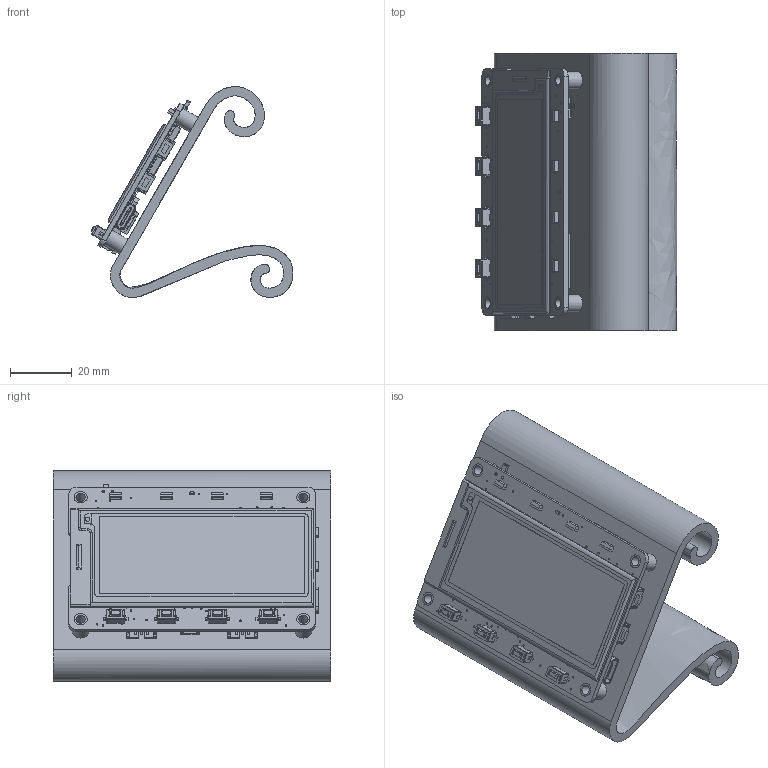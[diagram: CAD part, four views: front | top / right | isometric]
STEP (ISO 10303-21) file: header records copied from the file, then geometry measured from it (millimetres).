
FILE_DESCRIPTION(/* description */ (''),/* implementation_level */ '2;1');
FILE_NAME(/* name */ '/Users/emac5k/Dropbox/3D/Products/MagTag Christmas/cad/Fancy Stand Landscape.step',/* time_stamp */ '2020-12-06T12:24:25-05:00',/* author */ (''),/* organization */ (''),/* preprocessor_version */ 'ST-DEVELOPER v18.1',/* originating_system */ 'Autodesk Translation Framework v9.3.0.1241',/* authorisation */ '');
FILE_SCHEMA (('AUTOMOTIVE_DESIGN { 1 0 10303 214 3 1 1 }'));
Products named in the file (31): Fancy Stand Landscape; fancy stand landscape_1; Adafruit MagTag 2.9in v5; PCB Component; Board; ORANGE; 10uF; 100K; SPDT R/A; AP2112K-3.3; JSTPH; MBR0530; DMG3415U-7; USB C; ESP32-S2-WROVER; STEMMA_I2C_QT; RA_TACT; 10uH; DNP; IRLML0100; EINK_24PIN_290IN; TACTILE_3X6MM; WS2812B_4020; JST PH 3; 3.6V; LIS3DH; 7.5mm SPK; PAM8301; ALS-PT19-315C; stamdoffs; screen
Assembly tree (101 placements, depth 4):
  Fancy Stand Landscape
    fancy stand landscape_1
    Adafruit MagTag 2.9in v5
      PCB Component
        Board
        ORANGE  x3
        10uF  x22
        100K  x33
        SPDT R/A
        AP2112K-3.3  x2
        JSTPH
        MBR0530  x4
        DMG3415U-7  x3
        USB C
        ESP32-S2-WROVER
        STEMMA_I2C_QT
        RA_TACT  x2
        10uH
        DNP  x2
        IRLML0100
        EINK_24PIN_290IN
        TACTILE_3X6MM  x4
        WS2812B_4020  x4
        JST PH 3  x2
        3.6V  x2
        LIS3DH
        7.5mm SPK
        PAM8301
        ALS-PT19-315C
        stamdoffs
        screen
Bounding box: 65.46 x 90 x 68.43 mm (x, y, z)
Volume: 64228 mm3; surface area: 62604.1 mm2
Topology: 158 solids, 158 shells, 4677 faces, 12165 edges, 7780 vertices
Faces by surface type: plane 3565, cylinder 892, sphere 107, bspline 65, torus 39, cone 9
Full cylindrical faces by diameter (mm): 0.394 x3, 0.4 x12, 0.5 x131, 0.65 x2, 0.8 x4, 0.838 x2, 0.9 x2, 1 x6, 1.2 x1, 1.497 x1, 1.6 x1, 1.72 x1, 1.86 x1, 2 x2, 3 x4, 3.5 x4, 4.25 x8, 5.5 x4
Entity records: 93328 total; most frequent: CARTESIAN_POINT 17947, ORIENTED_EDGE 14990, DIRECTION 14832, EDGE_CURVE 7495, LINE 5932, VECTOR 5932, VERTEX_POINT 4782, AXIS2_PLACEMENT_3D 4450
